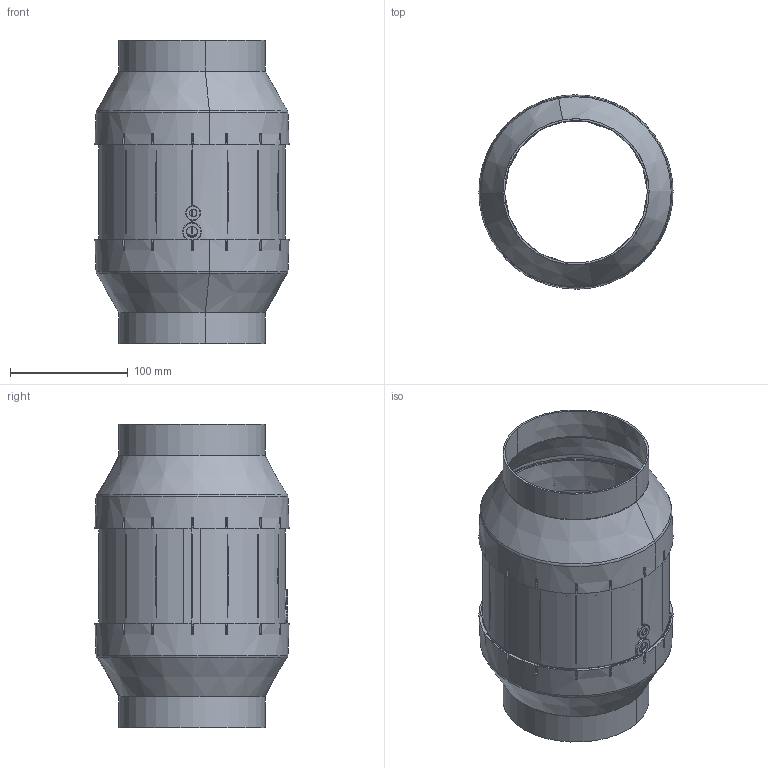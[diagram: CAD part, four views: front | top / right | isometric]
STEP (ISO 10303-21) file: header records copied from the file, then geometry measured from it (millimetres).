
FILE_DESCRIPTION (( 'STEP AP203' ), '1' );
FILE_NAME ('145804-00_EM125LEC02.STEP', '2018-09-18T06:23:52', ( '' ), ( '' ), 'SwSTEP 2.0', 'SolidWorks 2017', '' );
FILE_SCHEMA (( 'CONFIG_CONTROL_DESIGN' ));
Length unit declared in the file: millimetre
Products named in the file (1): 145804-00_EM125LEC02
Bounding box: 164.91 x 164.91 x 258 mm (x, y, z)
Surface area: 306164 mm2 (no closed solid volume)
Topology: 0 solids, 11 shells, 355 faces, 1317 edges, 904 vertices
Faces by surface type: plane 127, cylinder 108, cone 58, bspline 42, torus 20
Entity records: 17209 total; most frequent: CARTESIAN_POINT 7411, ORIENTED_EDGE 2117, DIRECTION 1726, EDGE_CURVE 1317, VERTEX_POINT 904, AXIS2_PLACEMENT_3D 718, B_SPLINE_CURVE_WITH_KNOTS 515, CIRCLE 404
